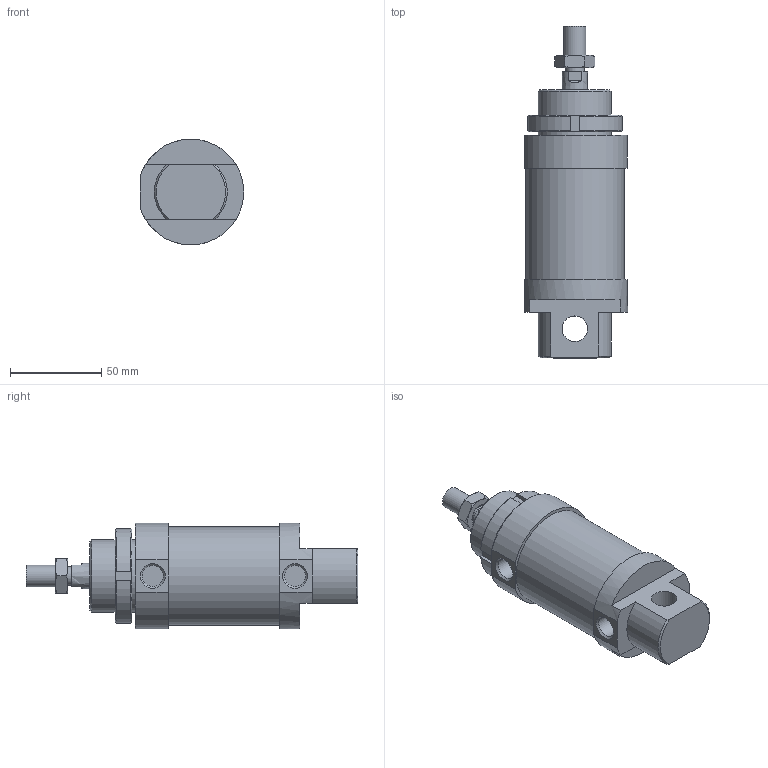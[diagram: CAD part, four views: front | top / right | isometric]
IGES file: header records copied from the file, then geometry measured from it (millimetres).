
Global section: file name: No Iges File Name specified; native system: AutoDesk Inventor R6.0; preprocessor: AutoDesk Inventor Iges Exporter R6.0; author: No Author specified; organization: No Organization specified; date: 20030402.144837; units: millimetre
Bounding box: 56.51 x 182 x 58 mm (x, y, z)
Surface area: 42869.2 mm2 (no closed solid volume)
Topology: 0 solids, 0 shells, 94 faces, 413 edges, 395 vertices
Faces by surface type: plane 44, revolution 39, bspline 11
